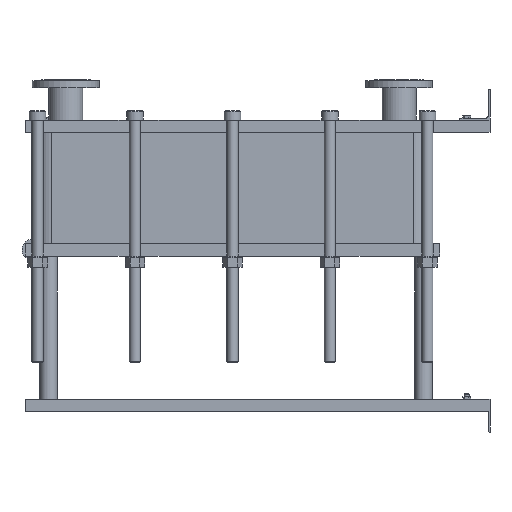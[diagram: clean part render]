
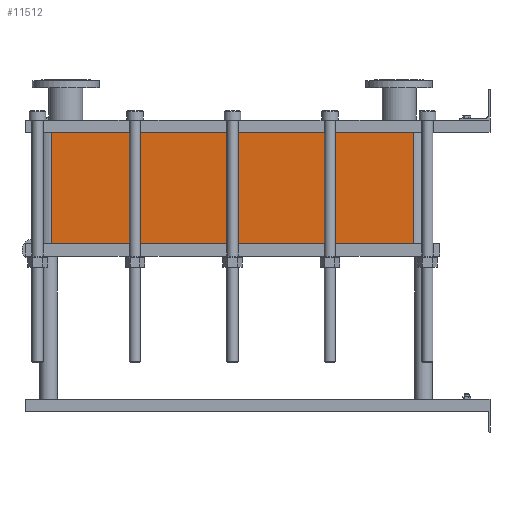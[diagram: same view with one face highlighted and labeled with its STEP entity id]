
A CAD part, left-side view. The second image highlights one B-rep face of the part: STEP entity #11512.
In plain terms, the highlighted planar face has unit normal (-1, 0, 0).
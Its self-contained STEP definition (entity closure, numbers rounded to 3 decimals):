
#1129=LINE('',#23232,#2102);
#1130=LINE('',#23236,#2103);
#1131=LINE('',#23238,#2104);
#1132=LINE('',#23239,#2105);
#2102=VECTOR('',#15887,10.);
#2103=VECTOR('',#15892,10.);
#2104=VECTOR('',#15893,10.);
#2105=VECTOR('',#15894,10.);
#3267=FACE_OUTER_BOUND('',#4093,.T.);
#4093=EDGE_LOOP('',(#10103,#10104,#10105,#10106));
#5642=VERTEX_POINT('',#23229);
#5643=VERTEX_POINT('',#23231);
#5644=VERTEX_POINT('',#23235);
#5645=VERTEX_POINT('',#23237);
#7159=EDGE_CURVE('',#5643,#5642,#1129,.T.);
#7161=EDGE_CURVE('',#5642,#5644,#1130,.T.);
#7162=EDGE_CURVE('',#5645,#5644,#1131,.T.);
#7163=EDGE_CURVE('',#5645,#5643,#1132,.T.);
#10103=ORIENTED_EDGE('',*,*,#7161,.T.);
#10104=ORIENTED_EDGE('',*,*,#7162,.F.);
#10105=ORIENTED_EDGE('',*,*,#7163,.T.);
#10106=ORIENTED_EDGE('',*,*,#7159,.T.);
#10857=PLANE('',#12751);
#11512=ADVANCED_FACE('',(#3267),#10857,.T.);
#12751=AXIS2_PLACEMENT_3D('',#23234,#15890,#15891);
#15887=DIRECTION('',(0.,0.,-1.));
#15890=DIRECTION('center_axis',(-1.,0.,0.));
#15891=DIRECTION('ref_axis',(0.,1.,0.));
#15892=DIRECTION('',(0.,-1.,0.));
#15893=DIRECTION('',(0.,0.,-1.));
#15894=DIRECTION('',(0.,1.,0.));
#23229=CARTESIAN_POINT('',(-200.,1414.,-358.8));
#23231=CARTESIAN_POINT('',(-200.,1414.,0.));
#23232=CARTESIAN_POINT('',(-200.,1414.,0.));
#23234=CARTESIAN_POINT('Origin',(-200.,248.,0.));
#23235=CARTESIAN_POINT('',(-200.,248.,-358.8));
#23236=CARTESIAN_POINT('',(-200.,539.5,-358.8));
#23237=CARTESIAN_POINT('',(-200.,248.,0.));
#23238=CARTESIAN_POINT('',(-200.,248.,0.));
#23239=CARTESIAN_POINT('',(-200.,248.,0.));
